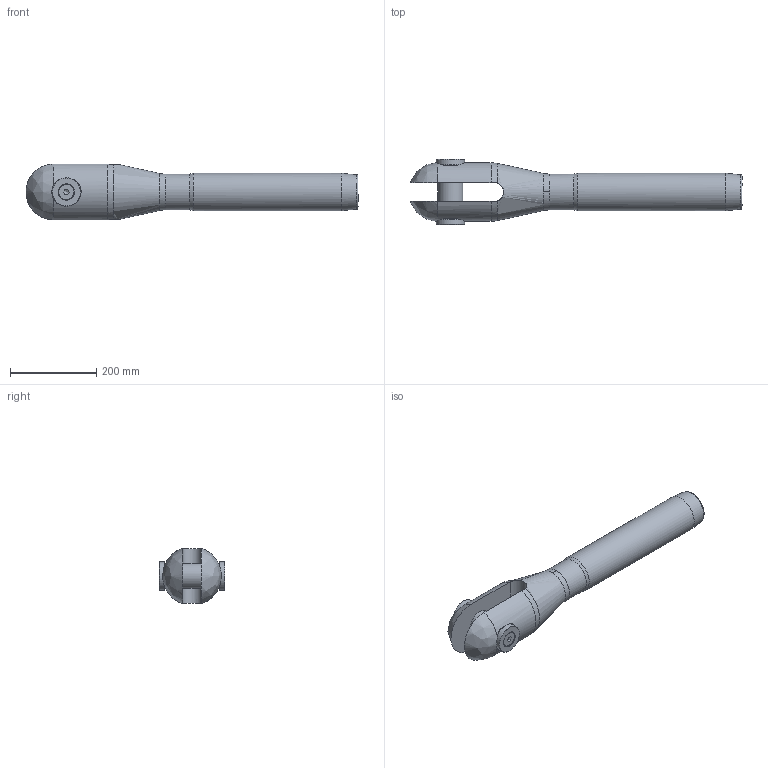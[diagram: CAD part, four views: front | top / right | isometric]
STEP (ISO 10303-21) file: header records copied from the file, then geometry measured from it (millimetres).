
FILE_DESCRIPTION(/* description */ (''),/* implementation_level */ '2;1');
FILE_NAME(/* name */ 'MAC 42_1,4418',/* time_stamp */ '2023-05-23T16:54:59+02:00',/* author */ (''),/* organization */ (''),/* preprocessor_version */ 'ST-DEVELOPER v16.5',/* originating_system */ 'Rhino 7.22',/* authorisation */ '');
FILE_SCHEMA (('CONFIG_CONTROL_DESIGN'));
Length unit declared in the file: millimetre
Products named in the file (1): Document
Bounding box: 770.25 x 151.54 x 128.69 mm (x, y, z)
Volume: 5357103.7 mm3; surface area: 351352 mm2
Topology: 6 solids, 6 shells, 75 faces, 210 edges, 145 vertices
Faces by surface type: plane 29, bspline 24, cylinder 22
Full cylindrical faces by diameter (mm): 17.294 x2, 20 x2, 21 x2, 35.4 x2, 58 x1, 59 x2, 66 x2, 83 x1, 87 x1
Entity records: 3170 total; most frequent: CARTESIAN_POINT 1823, ORIENTED_EDGE 412, EDGE_CURVE 206, VERTEX_POINT 145, EDGE_LOOP 85, B_SPLINE_CURVE_WITH_KNOTS 84, ADVANCED_FACE 75, FACE_OUTER_BOUND 75
